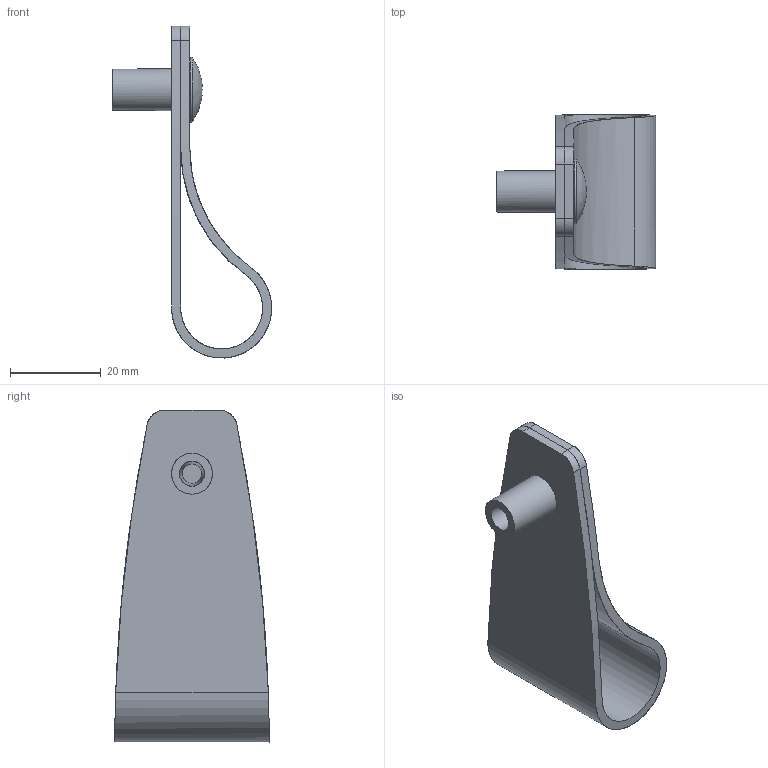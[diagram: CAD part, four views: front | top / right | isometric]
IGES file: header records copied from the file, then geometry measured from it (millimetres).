
Start section: C
Global section: file name: 8294-76.igs; native system: By Siemens PLM Incorporated; preprocessor: XPlus GENERIC/IGES 16.0.42; author: Author; organization: Title; date: 20220504.150250; units: millimetre
Bounding box: 35.04 x 33.99 x 72.99 mm (x, y, z)
Surface area: 11051.2 mm2 (no closed solid volume)
Topology: 0 solids, 0 shells, 26 faces, 145 edges, 144 vertices
Faces by surface type: bspline 26
